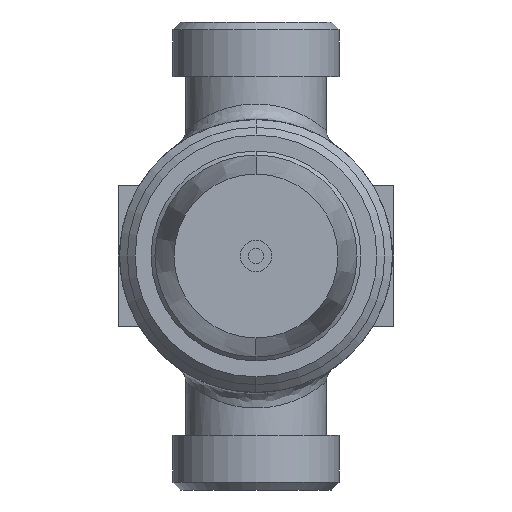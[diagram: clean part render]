
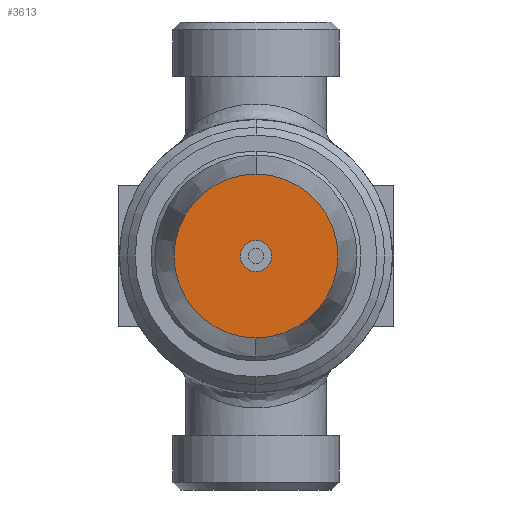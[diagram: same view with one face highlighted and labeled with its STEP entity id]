
A CAD part, front view. The second image highlights one B-rep face of the part: STEP entity #3613.
In plain terms, the highlighted planar face has unit normal (0, -1, 0).
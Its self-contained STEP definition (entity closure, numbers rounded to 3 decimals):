
#3535=CARTESIAN_POINT('',(0.,-44.9,19.501));
#3536=VERTEX_POINT('',#3535);
#3552=CARTESIAN_POINT('',(0.,-44.9,40.499));
#3553=VERTEX_POINT('',#3552);
#3560=CARTESIAN_POINT('',(0.,-44.9,30.));
#3561=DIRECTION('',(0.0,-1.0,0.0));
#3562=DIRECTION('',(0.0,0.0,-1.0));
#3563=AXIS2_PLACEMENT_3D('',#3560,#3561,#3562);
#3564=CIRCLE('',#3563,10.499);
#3565=EDGE_CURVE('',#3536,#3553,#3564,.T.);
#3592=CARTESIAN_POINT('',(0.,-44.9,30.));
#3593=DIRECTION('',(0.0,-1.0,0.0));
#3594=DIRECTION('',(0.0,0.0,-1.0));
#3595=AXIS2_PLACEMENT_3D('',#3592,#3593,#3594);
#3596=CIRCLE('',#3595,10.499);
#3597=EDGE_CURVE('',#3553,#3536,#3596,.T.);
#3604=CARTESIAN_POINT('',(0.,-44.9,24.75));
#3605=DIRECTION('',(0.0,-1.0,0.0));
#3606=DIRECTION('',(0.0,0.0,-1.0));
#3607=AXIS2_PLACEMENT_3D('',#3604,#3605,#3606);
#3608=PLANE('',#3607);
#3609=ORIENTED_EDGE('',*,*,#3565,.T.);
#3610=ORIENTED_EDGE('',*,*,#3597,.T.);
#3611=EDGE_LOOP('',(#3609,#3610));
#3612=FACE_OUTER_BOUND('',#3611,.T.);
#3613=ADVANCED_FACE('',(#3612),#3608,.T.);
